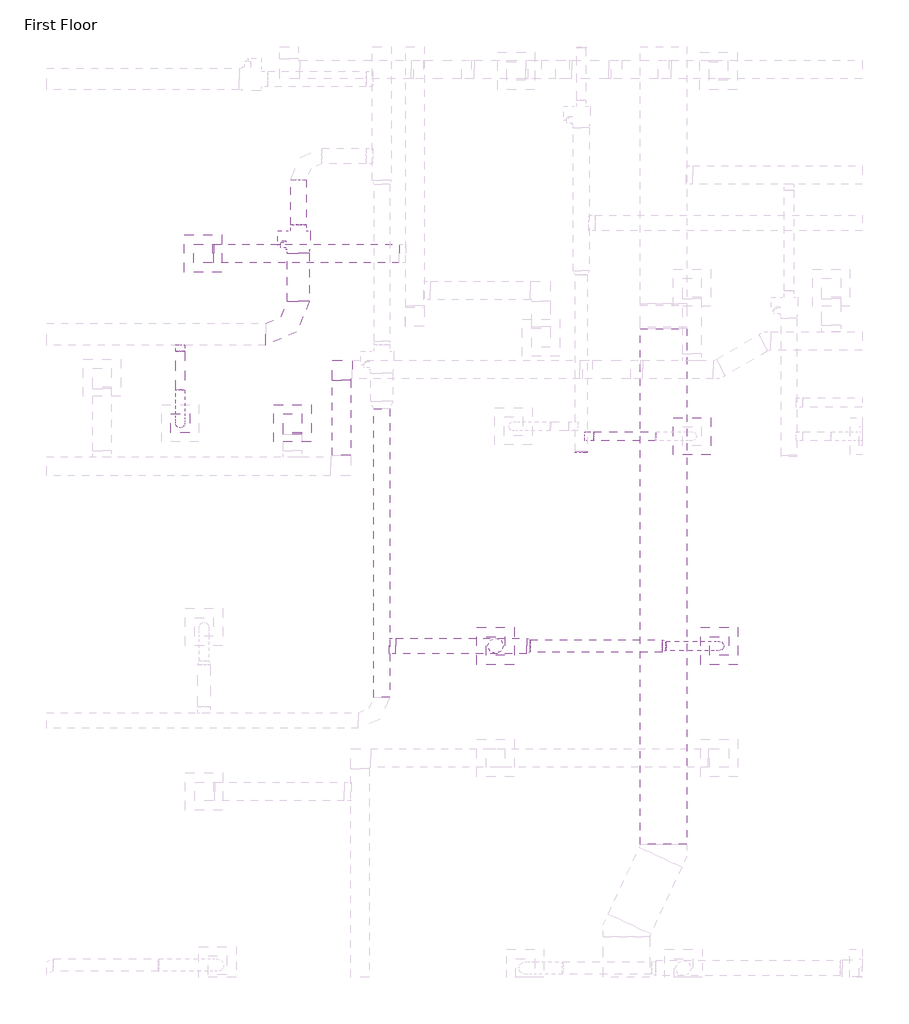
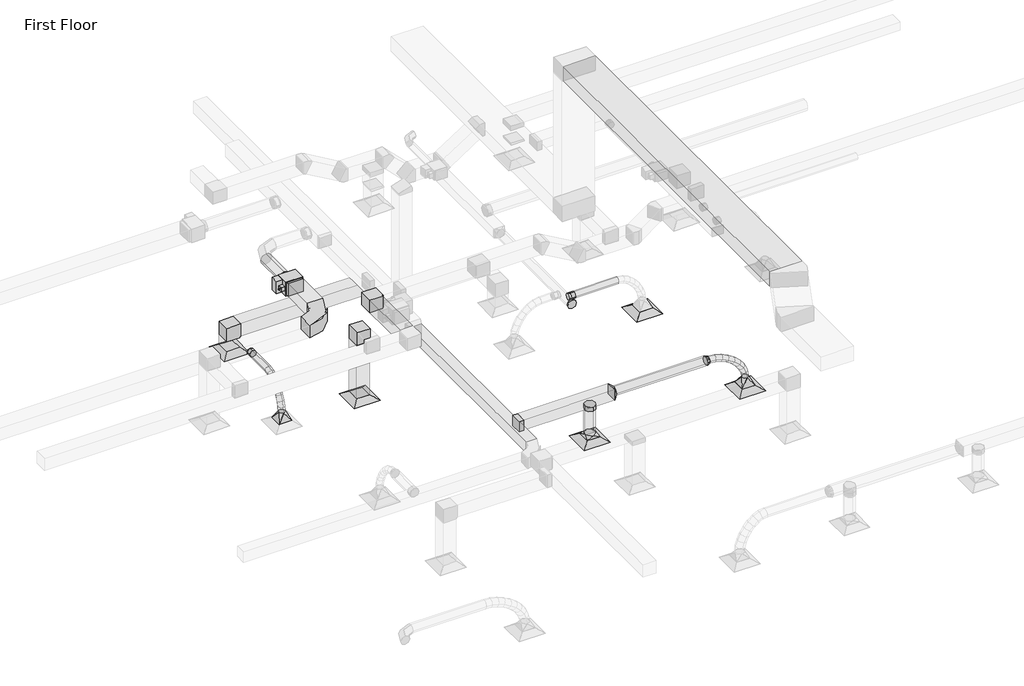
# One storey, part 36 of 61: 15 duct segments, 14 duct fittings, 5 air terminals, 1 proxy.
"""IFC4 building model written with IfcOpenShell, lengths in millimetres."""

from ifc_helpers import new_model, si_unit, point, frame, frame_2d, origin, place, context, project, spatial, polyline, circle_curve, ellipse_curve, trimmed, segment, composite_curve, outline, extrude, transform, mapped, element, save
from ifc_brep_helpers import plane_surface, cylinder_surface, advanced_brep
from components import m_exhaust_grill_er_600_x_600_face_300_x_300_connection_ff221211, m_vav_unit_single_duct_250_mm_b14a1009, m_rectangular_elbow_mitered_standard_8eee5933, m_rectangular_elbow_radius_1_5_w_da3ef0f7, m_rectangular_takeoff_standard_1c934564, m_rectangular_to_round_transition_angle_45_degree_8f201c83, m_rectangular_to_round_transition_angle_45_degree_8322f327, m_rectangular_to_round_transition_angle_45_degree_c30f01b8, m_round_endcap_standard_5afedfd2, m_round_takeoff_standard_2721f8a4, m_round_takeoff_standard_3c6c0435, m_round_takeoff_standard_8779dfef, m_round_transition_angle_45_degree_6d7b59ce

model = new_model("IFC4")

# Units and contexts
model_context = context("Model", 3, world=origin())
ifc_project = project(units=[si_unit("LENGTHUNIT", "METRE", prefix="MILLI")], contexts=[model_context])

# Site, building, storey
site = spatial("IfcSite", under=ifc_project)
building = spatial("IfcBuilding", under=site)
storey = spatial("IfcBuildingStorey", under=building, Name="First Floor", Elevation=0.0)

# Air terminals
placement = place(None, origin())
m_exhaust_grill_er_600_x_600_face_300_x_300_connection_shape = m_exhaust_grill_er_600_x_600_face_300_x_300_connection_ff221211(model_context)
element("IfcAirTerminal", 1, ObjectType="M_Exhaust Grill : ER-600 x 600 Face 300 x 300 Connection", at=placement, inside=storey, context=model_context, shape_type="MappedRepresentation", body=[
    mapped(m_exhaust_grill_er_600_x_600_face_300_x_300_connection_shape, transform((-42391.1937664, 38909.7346513, 2680.0), x_axis=(1.0, 0.0, 0.0), y_axis=(0.0, 1.0, 0.0), z_axis=(0.0, 0.0, 1.0))),
])
element("IfcAirTerminal", 2, ObjectType="M_Return Register : RR-600 x 600 Face 300 x 300 Connection", at=placement, inside=storey, context=model_context, shape_type="MappedRepresentation", body=[
    mapped(m_exhaust_grill_er_600_x_600_face_300_x_300_connection_shape, transform((-40955.8646212, 36180.4638744, 2680.0), x_axis=(1.0, 0.0, 0.0), y_axis=(0.0, 1.0, 0.0), z_axis=(0.0, 0.0, 1.0))),
])
element("IfcAirTerminal", 3, ObjectType="M_Supply Diffuser : SD-600 x 600 Face 300 x 300 Connection", at=placement, inside=storey, context=model_context, shape_type="MappedRepresentation", body=[
    mapped(m_exhaust_grill_er_600_x_600_face_300_x_300_connection_shape, transform((-34530.7549535, 35969.7483346, 2680.0), x_axis=(1.0, 0.0, 0.0), y_axis=(0.0, 1.0, 0.0), z_axis=(0.0, 0.0, 1.0))),
])
element("IfcAirTerminal", 4, ObjectType="M_Supply Diffuser : SD-600 x 600 Face 300 x 300 Connection", at=placement, inside=storey, context=model_context, shape_type="MappedRepresentation", body=[
    mapped(m_exhaust_grill_er_600_x_600_face_300_x_300_connection_shape, transform((-37688.496408, 32600.6692233, 2680.0), x_axis=(1.0, 0.0, 0.0), y_axis=(0.0, 1.0, 0.0), z_axis=(0.0, 0.0, 1.0))),
])
element("IfcAirTerminal", 5, ObjectType="M_Supply Diffuser : SD-600 x 600 Face 300 x 300 Connection", at=placement, inside=storey, context=model_context, shape_type="MappedRepresentation", body=[
    mapped(m_exhaust_grill_er_600_x_600_face_300_x_300_connection_shape, transform((-34093.0746185, 32600.6692233, 2680.0), x_axis=(1.0, 0.0, 0.0), y_axis=(0.0, 1.0, 0.0), z_axis=(0.0, 0.0, 1.0))),
])

# Proxy
m_vav_unit_single_duct_250_mm_shape = m_vav_unit_single_duct_250_mm_b14a1009(model_context)
element("IfcBuildingElementProxy", 6, Name="M_VAV Unit - Single Duct : 250 mm", ObjectType="M_VAV Unit - Single Duct : 250 mm", at=placement, inside=storey, context=model_context, shape_type="MappedRepresentation", body=[
    mapped(m_vav_unit_single_duct_250_mm_shape, transform((-40859.1255943, 39270.8324746, 3499.95), x_axis=(0.0, -1.0000000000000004, 0.0), y_axis=(1.0000000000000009, 0.0, 0.0), z_axis=(0.0, 0.0, 1.0000000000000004))),
])

# Duct fittings
m_rectangular_elbow_mitered_standard_shape = m_rectangular_elbow_mitered_standard_8eee5933(model_context)
element("IfcDuctFitting", 7, ObjectType="M_Rectangular Elbow - Mitered : Standard", at=placement, inside=storey, context=model_context, shape_type="MappedRepresentation", body=[
    mapped(m_rectangular_elbow_mitered_standard_shape, transform((-40955.8646212, 36180.4638744, 4259.5), x_axis=(0.0, 0.0, 1.0), y_axis=(0.0, -1.0, 0.0), z_axis=(1.0, 0.0, 0.0))),
])
element("IfcDuctFitting", 8, ObjectType="M_Rectangular Elbow - Mitered : Standard", at=placement, inside=storey, context=model_context, shape_type="MappedRepresentation", body=[
    mapped(m_rectangular_elbow_mitered_standard_shape, transform((-40167.2589113, 37043.8775197, 4259.5), x_axis=(-1.0, 0.0, 0.0), y_axis=(0.0, -1.0, 0.0), z_axis=(0.0, 0.0, 1.0))),
])
element("IfcDuctFitting", 9, ObjectType="M_Rectangular Elbow - Mitered : Standard", at=placement, inside=storey, context=model_context, shape_type="MappedRepresentation", body=[
    mapped(m_rectangular_elbow_mitered_standard_shape, transform((-42391.1937664, 38909.7346513, 3200.0), x_axis=(0.0, 0.0, 1.0), y_axis=(1.0, 0.0, 0.0), z_axis=(0.0, 1.0, 0.0))),
])
m_rectangular_elbow_radius_1_5_w_shape = m_rectangular_elbow_radius_1_5_w_da3ef0f7(model_context)
element("IfcDuctFitting", 10, ObjectType="M_Rectangular Elbow - Radius : 1.5 W", at=placement, inside=storey, context=model_context, shape_type="MappedRepresentation", body=[
    mapped(m_rectangular_elbow_radius_1_5_w_shape, transform((-40859.1255943, 37612.2097424, 3669.0), x_axis=(1.0, 0.0, 0.0), y_axis=(0.0, 1.0, 0.0), z_axis=(0.0, 0.0, 1.0))),
])
m_rectangular_takeoff_standard_shape = m_rectangular_takeoff_standard_1c934564(model_context)
element("IfcDuctFitting", 11, ObjectType="M_Rectangular Takeoff : Standard", at=placement, inside=storey, context=model_context, shape_type="MappedRepresentation", body=[
    mapped(m_rectangular_takeoff_standard_shape, transform((-39393.4687402, 32600.6692233, 3659.5), x_axis=(1.0, 0.0, 0.0), y_axis=(0.0, -1.0, 0.0), z_axis=(0.0, 0.0, -1.0))),
])
m_rectangular_to_round_transition_angle_45_degree_shape = m_rectangular_to_round_transition_angle_45_degree_8f201c83(model_context)
element("IfcDuctFitting", 12, ObjectType="M_Rectangular to Round Transition - Angle : 45 Degree", at=placement, inside=storey, context=model_context, shape_type="MappedRepresentation", body=[
    mapped(m_rectangular_to_round_transition_angle_45_degree_shape, transform((-42757.4487409, 36180.4638744, 2781.6), x_axis=(0.0, 0.0, 1.0), y_axis=(1.0, 0.0, 0.0), z_axis=(0.0, 1.0, 0.0))),
])
element("IfcDuctFitting", 13, ObjectType="M_Rectangular to Round Transition - Angle : 45 Degree", at=placement, inside=storey, context=model_context, shape_type="MappedRepresentation", body=[
    mapped(m_rectangular_to_round_transition_angle_45_degree_shape, transform((-34093.0746185, 32600.6692233, 2781.6), x_axis=(0.0, 0.0, 1.0), y_axis=(1.0, 0.0, 0.0), z_axis=(0.0, 1.0, 0.0))),
])
m_rectangular_to_round_transition_angle_45_degree_2_shape = m_rectangular_to_round_transition_angle_45_degree_8322f327(model_context)
element("IfcDuctFitting", 14, ObjectType="M_Rectangular to Round Transition - Angle : 45 Degree", at=placement, inside=storey, context=model_context, shape_type="MappedRepresentation", body=[
    mapped(m_rectangular_to_round_transition_angle_45_degree_2_shape, transform((-37188.1134011, 32600.6692233, 3659.5), x_axis=(1.0, 0.0, 0.0), y_axis=(0.0, 1.0, 0.0), z_axis=(0.0, 0.0, 1.0))),
])
m_rectangular_to_round_transition_angle_45_degree_3_shape = m_rectangular_to_round_transition_angle_45_degree_c30f01b8(model_context)
element("IfcDuctFitting", 15, ObjectType="M_Rectangular to Round Transition - Angle : 45 Degree", at=placement, inside=storey, context=model_context, shape_type="MappedRepresentation", body=[
    mapped(m_rectangular_to_round_transition_angle_45_degree_3_shape, transform((-37688.496408, 32600.6692233, 2781.6), x_axis=(0.0, 0.0, 1.0), y_axis=(0.0, -1.0, 0.0), z_axis=(1.0, 0.0, 0.0))),
])
m_round_endcap_standard_shape = m_round_endcap_standard_5afedfd2(model_context)
element("IfcDuctFitting", 16, ObjectType="M_Round Endcap : Standard", at=placement, inside=storey, context=model_context, shape_type="MappedRepresentation", body=[
    mapped(m_round_endcap_standard_shape, transform((-36311.3408383, 35729.6324746, 3619.0285156), x_axis=(0.0, -1.0, 0.0), y_axis=(1.0, 0.0, 0.0), z_axis=(0.0, 0.0, 1.0))),
])
m_round_takeoff_standard_shape = m_round_takeoff_standard_2721f8a4(model_context)
element("IfcDuctFitting", 17, ObjectType="M_Round Takeoff : Standard", at=placement, inside=storey, context=model_context, shape_type="MappedRepresentation", body=[
    mapped(m_round_takeoff_standard_shape, transform((-42757.4487409, 37437.2097424, 3669.0), x_axis=(0.0, -1.0, 0.0), y_axis=(-1.0, 0.0, 0.0), z_axis=(0.0, 0.0, -1.0))),
])
m_round_takeoff_standard_2_shape = m_round_takeoff_standard_3c6c0435(model_context)
element("IfcDuctFitting", 18, ObjectType="M_Round Takeoff : Standard", at=placement, inside=storey, context=model_context, shape_type="MappedRepresentation", body=[
    mapped(m_round_takeoff_standard_2_shape, transform((-37688.496408, 32600.6692233, 3534.5), x_axis=(0.0, 0.0, -1.0), y_axis=(0.0, 1.0, 0.0), z_axis=(1.0, 0.0, 0.0))),
])
m_round_takeoff_standard_3_shape = m_round_takeoff_standard_8779dfef(model_context)
element("IfcDuctFitting", 19, ObjectType="M_Round Takeoff : Standard", at=placement, inside=storey, context=model_context, shape_type="MappedRepresentation", body=[
    mapped(m_round_takeoff_standard_3_shape, transform((-36211.3408383, 35969.7483346, 3619.1), x_axis=(1.0, 0.0, 0.0), y_axis=(0.0, -1.0, 0.0), z_axis=(0.0, 0.0, -1.0))),
])
m_round_transition_angle_45_degree_shape = m_round_transition_angle_45_degree_6d7b59ce(model_context)
element("IfcDuctFitting", 20, ObjectType="M_Round Transition - Angle : 45 Degree", at=placement, inside=storey, context=model_context, shape_type="MappedRepresentation", body=[
    mapped(m_round_transition_angle_45_degree_shape, transform((-35008.4687402, 32600.6692233, 3659.5), x_axis=(1.0, 0.0, 0.0), y_axis=(0.0, 1.0, 0.0), z_axis=(0.0, 0.0, 1.0))),
])

# Duct segments
element("IfcDuctSegment", 21, ObjectType="Flex - Round", at=placement, inside=storey, context=model_context, shape_type="AdvancedBrep", body=[
    advanced_brep(
    [(-42682.4487409, 36712.2097424, 3669.0), (-42757.4487409, 36724.7756395, 3595.0601716), (-42832.4487409, 36712.2097424, 3669.0), (-42757.4487409, 36699.6438452, 3742.9398284), (-42682.4487409, 36604.7486089, 3650.7372371), (-42757.4487409, 36628.5180021, 3578.7014161), (-42832.4487409, 36604.7486089, 3650.7372371), (-42757.4487409, 36580.9792157, 3722.7730582), (-42682.4487409, 36180.4638744, 2962.6660172), (-42757.4487409, 36105.7902912, 2969.6557219), (-42832.4487409, 36180.4638744, 2962.6660172), (-42757.4487409, 36255.1374576, 2955.6763125), (-42682.4487409, 36504.7956172, 3600.0782596), (-42757.4487409, 36546.6272461, 3537.1968859), (-42832.4487409, 36504.7956172, 3600.0782596), (-42757.4487409, 36462.9639882, 3662.9596334), (-42682.4487409, 36414.452825, 3523.2170341), (-42757.4487409, 36468.3226166, 3470.5774064), (-42832.4487409, 36414.452825, 3523.2170341), (-42757.4487409, 36360.5830333, 3575.8566617), (-42682.4487409, 36335.8222899, 3426.3475271), (-42757.4487409, 36397.6543372, 3383.517063), (-42832.4487409, 36335.8222899, 3426.3475271), (-42757.4487409, 36273.9902425, 3469.1779912), (-42682.4487409, 36271.0060696, 3315.6637053), (-42757.4487409, 36338.3412045, 3282.2306229), (-42832.4487409, 36271.0060696, 3315.6637053), (-42757.4487409, 36203.6709347, 3349.0967877), (-42682.4487409, 36222.1062218, 3197.3595353), (-42757.4487409, 36293.4205667, 3173.5534181), (-42832.4487409, 36222.1062218, 3197.3595353), (-42757.4487409, 36150.791877, 3221.1656525), (-42682.4487409, 36191.2248042, 3077.6289837), (-42757.4487409, 36265.3412111, 3064.6867602), (-42832.4487409, 36191.2248042, 3077.6289837), (-42757.4487409, 36117.1083973, 3090.5712073)],
    [
        (0, 1, circle_curve(frame((-42757.4487409, 36712.2097424, 3669.0), z_axis=(0.0, 0.985864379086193, 0.16754529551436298), x_axis=(1.0, 0.0, 0.0)), 75.0)),
        (1, 2, circle_curve(frame((-42757.4487409, 36712.2097424, 3669.0), z_axis=(0.0, 0.985864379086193, 0.16754529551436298), x_axis=(1.0, 0.0, 0.0)), 75.0)),
        (2, 3, circle_curve(frame((-42757.4487409, 36712.2097424, 3669.0), z_axis=(0.0, 0.985864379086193, 0.16754529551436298), x_axis=(1.0, 0.0, 0.0)), 75.0)),
        (3, 0, circle_curve(frame((-42757.4487409, 36712.2097424, 3669.0), z_axis=(0.0, 0.985864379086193, 0.16754529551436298), x_axis=(1.0, 0.0, 0.0)), 75.0)),
        (0, 4),
        (4, 5, ellipse_curve(frame((-42757.4487409, 36604.7486089, 3650.7372371), z_axis=(0.0, 0.9496381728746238, 0.31334859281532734), x_axis=(0.0, 0.313348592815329, -0.9496381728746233)), 75.8560714, 75.0)),
        (5, 1),
        (5, 6, ellipse_curve(frame((-42757.4487409, 36604.7486089, 3650.7372371), z_axis=(0.0, 0.9496381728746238, 0.31334859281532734), x_axis=(0.0, 0.313348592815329, -0.9496381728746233)), 75.8560714, 75.0)),
        (6, 2),
        (6, 7, ellipse_curve(frame((-42757.4487409, 36604.7486089, 3650.7372371), z_axis=(0.0, 0.9496381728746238, 0.31334859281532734), x_axis=(0.0, 0.313348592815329, -0.9496381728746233)), 75.8560714, 75.0)),
        (7, 3),
        (7, 4, ellipse_curve(frame((-42757.4487409, 36604.7486089, 3650.7372371), z_axis=(0.0, 0.9496381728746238, 0.31334859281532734), x_axis=(0.0, 0.313348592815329, -0.9496381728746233)), 75.8560714, 75.0)),
        (8, 9, circle_curve(frame((-42757.4487409, 36180.4638744, 2962.6660172), z_axis=(0.0, -0.0931960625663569, -0.9956477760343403), x_axis=(1.0, 0.0, 0.0)), 75.0)),
        (9, 10, circle_curve(frame((-42757.4487409, 36180.4638744, 2962.6660172), z_axis=(0.0, -0.0931960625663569, -0.9956477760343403), x_axis=(1.0, 0.0, 0.0)), 75.0)),
        (10, 11, circle_curve(frame((-42757.4487409, 36180.4638744, 2962.6660172), z_axis=(0.0, -0.0931960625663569, -0.9956477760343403), x_axis=(1.0, 0.0, 0.0)), 75.0)),
        (11, 8, circle_curve(frame((-42757.4487409, 36180.4638744, 2962.6660172), z_axis=(0.0, -0.0931960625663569, -0.9956477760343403), x_axis=(1.0, 0.0, 0.0)), 75.0)),
        (4, 12),
        (12, 13, ellipse_curve(frame((-42757.4487409, 36504.7956172, 3600.0782596), z_axis=(0.0, 0.8325955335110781, 0.5538814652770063), x_axis=(0.0, 0.5538814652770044, -0.8325955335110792)), 75.5245149, 75.0)),
        (13, 5),
        (13, 14, ellipse_curve(frame((-42757.4487409, 36504.7956172, 3600.0782596), z_axis=(0.0, 0.8325955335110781, 0.5538814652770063), x_axis=(0.0, 0.5538814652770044, -0.8325955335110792)), 75.5245149, 75.0)),
        (14, 6),
        (14, 15, ellipse_curve(frame((-42757.4487409, 36504.7956172, 3600.0782596), z_axis=(0.0, 0.8325955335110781, 0.5538814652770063), x_axis=(0.0, 0.5538814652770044, -0.8325955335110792)), 75.5245149, 75.0)),
        (15, 7),
        (15, 12, ellipse_curve(frame((-42757.4487409, 36504.7956172, 3600.0782596), z_axis=(0.0, 0.8325955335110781, 0.5538814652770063), x_axis=(0.0, 0.5538814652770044, -0.8325955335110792)), 75.5245149, 75.0)),
        (12, 16),
        (16, 17, ellipse_curve(frame((-42757.4487409, 36414.452825, 3523.2170341), z_axis=(0.0, 0.6988932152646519, 0.7152260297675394), x_axis=(0.0, 0.7152260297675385, -0.6988932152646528)), 75.3185559, 75.0)),
        (17, 13),
        (17, 18, ellipse_curve(frame((-42757.4487409, 36414.452825, 3523.2170341), z_axis=(0.0, 0.6988932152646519, 0.7152260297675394), x_axis=(0.0, 0.7152260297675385, -0.6988932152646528)), 75.3185559, 75.0)),
        (18, 14),
        (18, 19, ellipse_curve(frame((-42757.4487409, 36414.452825, 3523.2170341), z_axis=(0.0, 0.6988932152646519, 0.7152260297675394), x_axis=(0.0, 0.7152260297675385, -0.6988932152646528)), 75.3185559, 75.0)),
        (19, 15),
        (19, 16, ellipse_curve(frame((-42757.4487409, 36414.452825, 3523.2170341), z_axis=(0.0, 0.6988932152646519, 0.7152260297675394), x_axis=(0.0, 0.7152260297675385, -0.6988932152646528)), 75.3185559, 75.0)),
        (16, 20),
        (20, 21, ellipse_curve(frame((-42757.4487409, 36335.8222899, 3426.3475271), z_axis=(0.0, 0.5694226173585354, 0.8220449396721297), x_axis=(0.0, 0.8220449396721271, -0.5694226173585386)), 75.2173566, 75.0)),
        (21, 17),
        (21, 22, ellipse_curve(frame((-42757.4487409, 36335.8222899, 3426.3475271), z_axis=(0.0, 0.5694226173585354, 0.8220449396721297), x_axis=(0.0, 0.8220449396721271, -0.5694226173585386)), 75.2173566, 75.0)),
        (22, 18),
        (22, 23, ellipse_curve(frame((-42757.4487409, 36335.8222899, 3426.3475271), z_axis=(0.0, 0.5694226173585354, 0.8220449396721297), x_axis=(0.0, 0.8220449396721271, -0.5694226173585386)), 75.2173566, 75.0)),
        (23, 19),
        (23, 20, ellipse_curve(frame((-42757.4487409, 36335.8222899, 3426.3475271), z_axis=(0.0, 0.5694226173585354, 0.8220449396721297), x_axis=(0.0, 0.8220449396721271, -0.5694226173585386)), 75.2173566, 75.0)),
        (20, 24),
        (24, 25, ellipse_curve(frame((-42757.4487409, 36271.0060696, 3315.6637053), z_axis=(0.0, 0.4447166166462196, 0.8956713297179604), x_axis=(0.0, 0.8956713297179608, -0.4447166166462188)), 75.1783971, 75.0)),
        (25, 21),
        (25, 26, ellipse_curve(frame((-42757.4487409, 36271.0060696, 3315.6637053), z_axis=(0.0, 0.4447166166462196, 0.8956713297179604), x_axis=(0.0, 0.8956713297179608, -0.4447166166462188)), 75.1783971, 75.0)),
        (26, 22),
        (26, 27, ellipse_curve(frame((-42757.4487409, 36271.0060696, 3315.6637053), z_axis=(0.0, 0.4447166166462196, 0.8956713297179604), x_axis=(0.0, 0.8956713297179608, -0.4447166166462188)), 75.1783971, 75.0)),
        (27, 23),
        (27, 24, ellipse_curve(frame((-42757.4487409, 36271.0060696, 3315.6637053), z_axis=(0.0, 0.4447166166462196, 0.8956713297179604), x_axis=(0.0, 0.8956713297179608, -0.4447166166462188)), 75.1783971, 75.0)),
        (24, 28),
        (28, 29, ellipse_curve(frame((-42757.4487409, 36222.1062218, 3197.3595353), z_axis=(0.0, 0.31664275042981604, 0.9485448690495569), x_axis=(0.0, 0.9485448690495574, -0.316642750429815)), 75.1828903, 75.0)),
        (29, 25),
        (29, 30, ellipse_curve(frame((-42757.4487409, 36222.1062218, 3197.3595353), z_axis=(0.0, 0.31664275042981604, 0.9485448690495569), x_axis=(0.0, 0.9485448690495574, -0.316642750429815)), 75.1828903, 75.0)),
        (30, 26),
        (30, 31, ellipse_curve(frame((-42757.4487409, 36222.1062218, 3197.3595353), z_axis=(0.0, 0.31664275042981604, 0.9485448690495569), x_axis=(0.0, 0.9485448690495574, -0.316642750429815)), 75.1828903, 75.0)),
        (31, 27),
        (31, 28, ellipse_curve(frame((-42757.4487409, 36222.1062218, 3197.3595353), z_axis=(0.0, 0.31664275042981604, 0.9485448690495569), x_axis=(0.0, 0.9485448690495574, -0.316642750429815)), 75.1828903, 75.0)),
        (28, 32),
        (32, 33, ellipse_curve(frame((-42757.4487409, 36191.2248042, 3077.6289837), z_axis=(0.0, 0.17201732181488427, 0.9850939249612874), x_axis=(0.0, 0.9850939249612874, -0.172017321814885)), 75.2379088, 75.0)),
        (33, 29),
        (33, 34, ellipse_curve(frame((-42757.4487409, 36191.2248042, 3077.6289837), z_axis=(0.0, 0.17201732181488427, 0.9850939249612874), x_axis=(0.0, 0.9850939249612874, -0.172017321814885)), 75.2379088, 75.0)),
        (34, 30),
        (34, 35, ellipse_curve(frame((-42757.4487409, 36191.2248042, 3077.6289837), z_axis=(0.0, 0.17201732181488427, 0.9850939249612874), x_axis=(0.0, 0.9850939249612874, -0.172017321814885)), 75.2379088, 75.0)),
        (35, 31),
        (35, 32, ellipse_curve(frame((-42757.4487409, 36191.2248042, 3077.6289837), z_axis=(0.0, 0.17201732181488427, 0.9850939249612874), x_axis=(0.0, 0.9850939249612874, -0.172017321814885)), 75.2379088, 75.0)),
        (32, 8),
        (11, 33),
        (10, 34),
        (9, 35),
    ],
    [
        plane_surface(frame((-42757.4487409, 36724.7756395, 3595.0601716), z_axis=(0.0, 0.9858643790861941, 0.1675452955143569), x_axis=(1.0, 0.0, 0.0))),
        cylinder_surface(frame((-42757.4487409, 36712.2097424, 3669.0), z_axis=(0.0, 0.985864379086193, 0.16754529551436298), x_axis=(1.0, 0.0, 0.0)), 75.0),
        plane_surface(frame((-42757.4487409, 36255.1374576, 2955.6763125), z_axis=(0.0, -0.09319606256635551, -0.9956477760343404), x_axis=(1.0, 0.0, 0.0))),
        cylinder_surface(frame((-42757.4487409, 36604.7486089, 3650.7372371), z_axis=(0.0, 0.891977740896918, 0.4520793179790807), x_axis=(1.0, 0.0, 0.0)), 75.0),
        cylinder_surface(frame((-42757.4487409, 36504.7956172, 3600.0782596), z_axis=(0.0, 0.7616486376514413, 0.6479902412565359), x_axis=(1.0, 0.0, 0.0)), 75.0),
        cylinder_surface(frame((-42757.4487409, 36414.452825, 3523.2170341), z_axis=(0.0, 0.6302259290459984, 0.7764117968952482), x_axis=(1.0, 0.0, 0.0)), 75.0),
        cylinder_surface(frame((-42757.4487409, 36335.8222899, 3426.3475271), z_axis=(0.0, 0.5053283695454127, 0.8629271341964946), x_axis=(1.0, 0.0, 0.0)), 75.0),
        cylinder_surface(frame((-42757.4487409, 36271.0060696, 3315.6637053), z_axis=(0.0, 0.3819942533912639, 0.9241646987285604), x_axis=(1.0, 0.0, 0.0)), 75.0),
        cylinder_surface(frame((-42757.4487409, 36222.1062218, 3197.3595353), z_axis=(0.0, 0.24975071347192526, 0.9683101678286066), x_axis=(1.0, 0.0, 0.0)), 75.0),
        cylinder_surface(frame((-42757.4487409, 36191.2248042, 3077.6289837), z_axis=(0.0, 0.0931960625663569, 0.9956477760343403), x_axis=(1.0, 0.0, 0.0)), 75.0),
    ],
    [
        (0, [[1, 2, 3, 4]]),
        (1, [[-1, 5, 6, 7]]),
        (1, [[-2, -7, 8, 9]]),
        (1, [[-3, -9, 10, 11]]),
        (1, [[-4, -11, 12, -5]]),
        (2, [[13, 14, 15, 16]]),
        (3, [[-6, 17, 18, 19]]),
        (3, [[-8, -19, 20, 21]]),
        (3, [[-10, -21, 22, 23]]),
        (3, [[-12, -23, 24, -17]]),
        (4, [[-18, 25, 26, 27]]),
        (4, [[-20, -27, 28, 29]]),
        (4, [[-22, -29, 30, 31]]),
        (4, [[-24, -31, 32, -25]]),
        (5, [[-26, 33, 34, 35]]),
        (5, [[-28, -35, 36, 37]]),
        (5, [[-30, -37, 38, 39]]),
        (5, [[-32, -39, 40, -33]]),
        (6, [[-34, 41, 42, 43]]),
        (6, [[-36, -43, 44, 45]]),
        (6, [[-38, -45, 46, 47]]),
        (6, [[-40, -47, 48, -41]]),
        (7, [[-42, 49, 50, 51]]),
        (7, [[-44, -51, 52, 53]]),
        (7, [[-46, -53, 54, 55]]),
        (7, [[-48, -55, 56, -49]]),
        (8, [[-50, 57, 58, 59]]),
        (8, [[-52, -59, 60, 61]]),
        (8, [[-54, -61, 62, 63]]),
        (8, [[-56, -63, 64, -57]]),
        (9, [[-58, 65, -16, 66]]),
        (9, [[-60, -66, -15, 67]]),
        (9, [[-62, -67, -14, 68]]),
        (9, [[-64, -68, -13, -65]]),
    ],
),
])
element("IfcDuctSegment", 22, ObjectType="Flex - Round", at=placement, inside=storey, context=model_context, shape_type="AdvancedBrep", body=[
    advanced_brep(
    [(-34948.1134011, 32675.6692233, 3659.5), (-34955.9037684, 32600.6692233, 3584.9056961), (-34948.1134011, 32525.6692233, 3659.5), (-34940.3230338, 32600.6692233, 3734.0943039), (-34805.8103071, 32675.6692233, 3644.6383643), (-34820.230345, 32600.6692233, 3570.7364399), (-34805.8103071, 32525.6692233, 3644.6383643), (-34791.3902692, 32600.6692233, 3718.5402887), (-34093.0746185, 32675.6692233, 2962.6660172), (-34019.0147525, 32600.6692233, 2974.5039331), (-34093.0746185, 32525.6692233, 2962.6660172), (-34167.1344844, 32600.6692233, 2950.8281013), (-34659.4003967, 32675.6692233, 3602.3240884), (-34685.7129818, 32600.6692233, 3531.8592573), (-34659.4003967, 32525.6692233, 3602.3240884), (-34633.0878116, 32600.6692233, 3672.7889195), (-34515.9975419, 32675.6692233, 3535.9631193), (-34552.4354482, 32600.6692233, 3470.1838722), (-34515.9975419, 32525.6692233, 3535.9631193), (-34479.5596356, 32600.6692233, 3601.7423663), (-34382.7156146, 32675.6692233, 3448.9614038), (-34428.5419601, 32600.6692233, 3389.310597), (-34382.7156146, 32525.6692233, 3448.9614038), (-34336.889269, 32600.6692233, 3508.6122106), (-34266.6684866, 32675.6692233, 3344.7248889), (-34321.7821972, 32600.6692233, 3293.4162322), (-34266.6684866, 32525.6692233, 3344.7248889), (-34211.5547761, 32600.6692233, 3396.0335457), (-34174.97003, 32675.6692233, 3226.6595216), (-34239.3300978, 32600.6692233, 3187.2559133), (-34174.97003, 32525.6692233, 3226.6595216), (-34110.6099623, 32600.6692233, 3266.06313), (-34114.7341167, 32675.6692233, 3098.1712487), (-34187.1264871, 32600.6692233, 3075.9012179), (-34114.7341167, 32525.6692233, 3098.1712487), (-34042.3417463, 32600.6692233, 3120.4412796)],
    [
        (0, 1, circle_curve(frame((-34948.1134011, 32600.6692233, 3659.5), z_axis=(-0.9945907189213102, 0.0, 0.10387156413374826), x_axis=(0.0, 1.0, 0.0)), 75.0)),
        (1, 2, circle_curve(frame((-34948.1134011, 32600.6692233, 3659.5), z_axis=(-0.9945907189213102, 0.0, 0.10387156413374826), x_axis=(0.0, 1.0, 0.0)), 75.0)),
        (2, 3, circle_curve(frame((-34948.1134011, 32600.6692233, 3659.5), z_axis=(-0.9945907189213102, 0.0, 0.10387156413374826), x_axis=(0.0, 1.0, 0.0)), 75.0)),
        (3, 0, circle_curve(frame((-34948.1134011, 32600.6692233, 3659.5), z_axis=(-0.9945907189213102, 0.0, 0.10387156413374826), x_axis=(0.0, 1.0, 0.0)), 75.0)),
        (0, 4),
        (4, 5, ellipse_curve(frame((-34805.8103071, 32600.6692233, 3644.6383643), z_axis=(-0.9814902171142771, 0.0, 0.19151228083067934), x_axis=(-0.19151228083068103, 0.0, -0.9814902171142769)), 75.2956302, 75.0)),
        (5, 1),
        (5, 6, ellipse_curve(frame((-34805.8103071, 32600.6692233, 3644.6383643), z_axis=(-0.9814902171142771, 0.0, 0.19151228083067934), x_axis=(-0.19151228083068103, 0.0, -0.9814902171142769)), 75.2956302, 75.0)),
        (6, 2),
        (6, 7, ellipse_curve(frame((-34805.8103071, 32600.6692233, 3644.6383643), z_axis=(-0.9814902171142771, 0.0, 0.19151228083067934), x_axis=(-0.19151228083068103, 0.0, -0.9814902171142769)), 75.2956302, 75.0)),
        (7, 3),
        (7, 4, ellipse_curve(frame((-34805.8103071, 32600.6692233, 3644.6383643), z_axis=(-0.9814902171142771, 0.0, 0.19151228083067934), x_axis=(-0.19151228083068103, 0.0, -0.9814902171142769)), 75.2956302, 75.0)),
        (8, 9, circle_curve(frame((-34093.0746185, 32600.6692233, 2962.6660172), z_axis=(0.15783887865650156, 0.0, -0.9874648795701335), x_axis=(0.0, 1.0, 0.0)), 75.0)),
        (9, 10, circle_curve(frame((-34093.0746185, 32600.6692233, 2962.6660172), z_axis=(0.15783887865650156, 0.0, -0.9874648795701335), x_axis=(0.0, 1.0, 0.0)), 75.0)),
        (10, 11, circle_curve(frame((-34093.0746185, 32600.6692233, 2962.6660172), z_axis=(0.15783887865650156, 0.0, -0.9874648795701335), x_axis=(0.0, 1.0, 0.0)), 75.0)),
        (11, 8, circle_curve(frame((-34093.0746185, 32600.6692233, 2962.6660172), z_axis=(0.15783887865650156, 0.0, -0.9874648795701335), x_axis=(0.0, 1.0, 0.0)), 75.0)),
        (4, 12),
        (12, 13, ellipse_curve(frame((-34659.4003967, 32600.6692233, 3602.3240884), z_axis=(-0.9368166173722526, 0.0, 0.3498208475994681), x_axis=(-0.34982084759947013, 0.0, -0.936816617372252)), 75.2173155, 75.0)),
        (13, 5),
        (13, 14, ellipse_curve(frame((-34659.4003967, 32600.6692233, 3602.3240884), z_axis=(-0.9368166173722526, 0.0, 0.3498208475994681), x_axis=(-0.34982084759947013, 0.0, -0.936816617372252)), 75.2173155, 75.0)),
        (14, 6),
        (14, 15, ellipse_curve(frame((-34659.4003967, 32600.6692233, 3602.3240884), z_axis=(-0.9368166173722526, 0.0, 0.3498208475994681), x_axis=(-0.34982084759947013, 0.0, -0.936816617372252)), 75.2173155, 75.0)),
        (15, 7),
        (15, 12, ellipse_curve(frame((-34659.4003967, 32600.6692233, 3602.3240884), z_axis=(-0.9368166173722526, 0.0, 0.3498208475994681), x_axis=(-0.34982084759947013, 0.0, -0.936816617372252)), 75.2173155, 75.0)),
        (12, 16),
        (16, 17, ellipse_curve(frame((-34515.9975419, 32600.6692233, 3535.9631193), z_axis=(-0.874755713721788, 0.0, 0.48456417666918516), x_axis=(-0.484564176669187, 0.0, -0.8747557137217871)), 75.1972762, 75.0)),
        (17, 13),
        (17, 18, ellipse_curve(frame((-34515.9975419, 32600.6692233, 3535.9631193), z_axis=(-0.874755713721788, 0.0, 0.48456417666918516), x_axis=(-0.484564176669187, 0.0, -0.8747557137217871)), 75.1972762, 75.0)),
        (18, 14),
        (18, 19, ellipse_curve(frame((-34515.9975419, 32600.6692233, 3535.9631193), z_axis=(-0.874755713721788, 0.0, 0.48456417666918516), x_axis=(-0.484564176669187, 0.0, -0.8747557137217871)), 75.1972762, 75.0)),
        (19, 15),
        (19, 16, ellipse_curve(frame((-34515.9975419, 32600.6692233, 3535.9631193), z_axis=(-0.874755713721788, 0.0, 0.48456417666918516), x_axis=(-0.484564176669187, 0.0, -0.8747557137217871)), 75.1972762, 75.0)),
        (16, 20),
        (20, 21, ellipse_curve(frame((-34382.7156146, 32600.6692233, 3448.9614038), z_axis=(-0.7930021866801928, 0.0, 0.6092187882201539), x_axis=(-0.6092187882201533, 0.0, -0.7930021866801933)), 75.221491, 75.0)),
        (21, 17),
        (21, 22, ellipse_curve(frame((-34382.7156146, 32600.6692233, 3448.9614038), z_axis=(-0.7930021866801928, 0.0, 0.6092187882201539), x_axis=(-0.6092187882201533, 0.0, -0.7930021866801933)), 75.221491, 75.0)),
        (22, 18),
        (22, 23, ellipse_curve(frame((-34382.7156146, 32600.6692233, 3448.9614038), z_axis=(-0.7930021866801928, 0.0, 0.6092187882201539), x_axis=(-0.6092187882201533, 0.0, -0.7930021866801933)), 75.221491, 75.0)),
        (23, 19),
        (23, 20, ellipse_curve(frame((-34382.7156146, 32600.6692233, 3448.9614038), z_axis=(-0.7930021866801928, 0.0, 0.6092187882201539), x_axis=(-0.6092187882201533, 0.0, -0.7930021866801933)), 75.221491, 75.0)),
        (20, 24),
        (24, 25, ellipse_curve(frame((-34266.6684866, 32600.6692233, 3344.7248889), z_axis=(-0.681389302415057, 0.0, 0.7319211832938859), x_axis=(-0.7319211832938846, 0.0, -0.6813893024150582)), 75.3000621, 75.0)),
        (25, 21),
        (25, 26, ellipse_curve(frame((-34266.6684866, 32600.6692233, 3344.7248889), z_axis=(-0.681389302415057, 0.0, 0.7319211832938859), x_axis=(-0.7319211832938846, 0.0, -0.6813893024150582)), 75.3000621, 75.0)),
        (26, 22),
        (26, 27, ellipse_curve(frame((-34266.6684866, 32600.6692233, 3344.7248889), z_axis=(-0.681389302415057, 0.0, 0.7319211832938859), x_axis=(-0.7319211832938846, 0.0, -0.6813893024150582)), 75.3000621, 75.0)),
        (27, 23),
        (27, 24, ellipse_curve(frame((-34266.6684866, 32600.6692233, 3344.7248889), z_axis=(-0.681389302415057, 0.0, 0.7319211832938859), x_axis=(-0.7319211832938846, 0.0, -0.6813893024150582)), 75.3000621, 75.0)),
        (24, 28),
        (28, 29, ellipse_curve(frame((-34174.97003, 32600.6692233, 3226.6595216), z_axis=(-0.5221488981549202, 0.0, 0.8528543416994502), x_axis=(-0.8528543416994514, 0.0, -0.5221488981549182)), 75.4643139, 75.0)),
        (29, 25),
        (29, 30, ellipse_curve(frame((-34174.97003, 32600.6692233, 3226.6595216), z_axis=(-0.5221488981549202, 0.0, 0.8528543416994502), x_axis=(-0.8528543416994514, 0.0, -0.5221488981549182)), 75.4643139, 75.0)),
        (30, 26),
        (30, 31, ellipse_curve(frame((-34174.97003, 32600.6692233, 3226.6595216), z_axis=(-0.5221488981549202, 0.0, 0.8528543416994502), x_axis=(-0.8528543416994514, 0.0, -0.5221488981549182)), 75.4643139, 75.0)),
        (31, 27),
        (31, 28, ellipse_curve(frame((-34174.97003, 32600.6692233, 3226.6595216), z_axis=(-0.5221488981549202, 0.0, 0.8528543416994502), x_axis=(-0.8528543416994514, 0.0, -0.5221488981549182)), 75.4643139, 75.0)),
        (28, 32),
        (32, 33, ellipse_curve(frame((-34114.7341167, 32600.6692233, 3098.1712487), z_axis=(-0.29403103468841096, 0.0, 0.9557958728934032), x_axis=(-0.955795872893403, 0.0, -0.29403103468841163)), 75.7404091, 75.0)),
        (33, 29),
        (33, 34, ellipse_curve(frame((-34114.7341167, 32600.6692233, 3098.1712487), z_axis=(-0.29403103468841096, 0.0, 0.9557958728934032), x_axis=(-0.955795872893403, 0.0, -0.29403103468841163)), 75.7404091, 75.0)),
        (34, 30),
        (34, 35, ellipse_curve(frame((-34114.7341167, 32600.6692233, 3098.1712487), z_axis=(-0.29403103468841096, 0.0, 0.9557958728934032), x_axis=(-0.955795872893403, 0.0, -0.29403103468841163)), 75.7404091, 75.0)),
        (35, 31),
        (35, 32, ellipse_curve(frame((-34114.7341167, 32600.6692233, 3098.1712487), z_axis=(-0.29403103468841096, 0.0, 0.9557958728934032), x_axis=(-0.955795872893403, 0.0, -0.29403103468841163)), 75.7404091, 75.0)),
        (32, 8),
        (11, 33),
        (10, 34),
        (9, 35),
    ],
    [
        plane_surface(frame((-34948.1134011, 32675.6692233, 3659.5), z_axis=(-0.9945907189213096, 0.0, 0.10387156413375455), x_axis=(0.10387156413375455, 0.0, 0.9945907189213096))),
        cylinder_surface(frame((-34948.1134011, 32600.6692233, 3659.5), z_axis=(-0.9945907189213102, 0.0, 0.10387156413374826), x_axis=(0.0, 1.0, 0.0)), 75.0),
        plane_surface(frame((-34093.0746185, 32675.6692233, 2962.6660172), z_axis=(0.15783887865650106, 0.0, -0.9874648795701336), x_axis=(0.9874648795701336, 0.0, 0.15783887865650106))),
        cylinder_surface(frame((-34805.8103071, 32600.6692233, 3644.6383643), z_axis=(-0.9606825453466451, 0.0, 0.2776491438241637), x_axis=(0.0, 1.0, 0.0)), 75.0),
        cylinder_surface(frame((-34659.4003967, 32600.6692233, 3602.3240884), z_axis=(-0.9075374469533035, 0.0, 0.41997116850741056), x_axis=(0.0, 1.0, 0.0)), 75.0),
        cylinder_surface(frame((-34515.9975419, 32600.6692233, 3535.9631193), z_axis=(-0.837384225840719, 0.0, 0.546614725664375), x_axis=(0.0, 1.0, 0.0)), 75.0),
        cylinder_surface(frame((-34382.7156146, 32600.6692233, 3448.9614038), z_axis=(-0.7439501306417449, 0.0, 0.6682351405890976), x_axis=(0.0, 1.0, 0.0)), 75.0),
        cylinder_surface(frame((-34266.6684866, 32600.6692233, 3344.7248889), z_axis=(-0.6133979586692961, 0.0, 0.7897739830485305), x_axis=(0.0, 1.0, 0.0)), 75.0),
        cylinder_surface(frame((-34174.97003, 32600.6692233, 3226.6595216), z_axis=(-0.42447452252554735, 0.0, 0.9054398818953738), x_axis=(0.0, 1.0, 0.0)), 75.0),
        cylinder_surface(frame((-34114.7341167, 32600.6692233, 3098.1712487), z_axis=(-0.15783887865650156, 0.0, 0.9874648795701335), x_axis=(0.0, 1.0, 0.0)), 75.0),
    ],
    [
        (0, [[1, 2, 3, 4]]),
        (1, [[-1, 5, 6, 7]]),
        (1, [[-2, -7, 8, 9]]),
        (1, [[-3, -9, 10, 11]]),
        (1, [[-4, -11, 12, -5]]),
        (2, [[13, 14, 15, 16]]),
        (3, [[-6, 17, 18, 19]]),
        (3, [[-8, -19, 20, 21]]),
        (3, [[-10, -21, 22, 23]]),
        (3, [[-12, -23, 24, -17]]),
        (4, [[-18, 25, 26, 27]]),
        (4, [[-20, -27, 28, 29]]),
        (4, [[-22, -29, 30, 31]]),
        (4, [[-24, -31, 32, -25]]),
        (5, [[-26, 33, 34, 35]]),
        (5, [[-28, -35, 36, 37]]),
        (5, [[-30, -37, 38, 39]]),
        (5, [[-32, -39, 40, -33]]),
        (6, [[-34, 41, 42, 43]]),
        (6, [[-36, -43, 44, 45]]),
        (6, [[-38, -45, 46, 47]]),
        (6, [[-40, -47, 48, -41]]),
        (7, [[-42, 49, 50, 51]]),
        (7, [[-44, -51, 52, 53]]),
        (7, [[-46, -53, 54, 55]]),
        (7, [[-48, -55, 56, -49]]),
        (8, [[-50, 57, 58, 59]]),
        (8, [[-52, -59, 60, 61]]),
        (8, [[-54, -61, 62, 63]]),
        (8, [[-56, -63, 64, -57]]),
        (9, [[-58, 65, -16, 66]]),
        (9, [[-60, -66, -15, 67]]),
        (9, [[-62, -67, -14, 68]]),
        (9, [[-64, -68, -13, -65]]),
    ],
),
])
element("IfcDuctSegment", 23, ObjectType="Mitered Elbows / Taps", at=placement, inside=storey, context=model_context, shape_type="SweptSolid", body=[
    extrude(outline(polyline([(-40805.8646212, 36030.4638744), (-41105.8646212, 36030.4638744), (-41105.8646212, 36330.4638744), (-40805.8646212, 36330.4638744), (-40805.8646212, 36030.4638744)])), frame((0.0, 0.0, 2781.6), z_axis=(0.0, 0.0, 1.0), x_axis=(1.0, 0.0, 0.0)), (0.0, 0.0, 1.0), 1302.9),
])
element("IfcDuctSegment", 24, ObjectType="Mitered Elbows / Taps", at=placement, inside=storey, context=model_context, shape_type="SweptSolid", body=[
    extrude(outline(polyline([(-40317.2589113, 36868.8775197), (-40017.2589113, 36868.8775197), (-40017.2589113, 35663.5601587), (-40317.2589113, 35663.5601587), (-40317.2589113, 36868.8775197)])), frame((0.0, 0.0, 4109.5), z_axis=(0.0, 0.0, 1.0), x_axis=(1.0, 0.0, 0.0)), (0.0, 0.0, 1.0), 300.0),
])
element("IfcDuctSegment", 25, ObjectType="Mitered Elbows / Taps", at=placement, inside=storey, context=model_context, shape_type="SweptSolid", body=[
    extrude(outline(polyline([(-35366.1904063, 37699.674982), (-34616.1904063, 37699.674982), (-34616.1904063, 29407.8104805), (-35366.1904063, 29407.8104805), (-35366.1904063, 37699.674982)])), frame((0.0, 0.0, 7544.5), z_axis=(0.0, 0.0, 1.0), x_axis=(1.0, 0.0, 0.0)), (0.0, 0.0, 1.0), 350.0),
])
element("IfcDuctSegment", 26, ObjectType="Mitered Elbows / Taps", at=placement, inside=storey, context=model_context, shape_type="SweptSolid", body=[
    extrude(outline(polyline([(-39235.9613903, 39059.7346513), (-39235.9613903, 38759.7346513), (-42216.1937664, 38759.7346513), (-42216.1937664, 39059.7346513), (-39235.9613903, 39059.7346513)])), frame((0.0, 0.0, 3050.0), z_axis=(0.0, 0.0, 1.0), x_axis=(1.0, 0.0, 0.0)), (0.0, 0.0, 1.0), 300.0),
])
element("IfcDuctSegment", 27, ObjectType="Mitered Elbows / Taps", at=placement, inside=storey, context=model_context, shape_type="SweptSolid", body=[
    extrude(outline(polyline([(-42241.1937664, 39059.7346513), (-42241.1937664, 38759.7346513), (-42541.1937664, 38759.7346513), (-42541.1937664, 39059.7346513), (-42241.1937664, 39059.7346513)])), frame((0.0, 0.0, 2781.6), z_axis=(0.0, 0.0, 1.0), x_axis=(1.0, 0.0, 0.0)), (0.0, 0.0, 1.0), 243.4),
])
element("IfcDuctSegment", 28, ObjectType="Radius Elbows / Taps", at=placement, inside=storey, context=model_context, shape_type="SweptSolid", body=[
    extrude(outline(polyline([(-39293.4687402, 32475.6692233), (-39293.4687402, 32725.6692233), (-37188.1134011, 32725.6692233), (-37188.1134011, 32475.6692233), (-39293.4687402, 32475.6692233)])), frame((0.0, 0.0, 3534.5), z_axis=(0.0, 0.0, 1.0), x_axis=(1.0, 0.0, 0.0)), (0.0, 0.0, 1.0), 250.0),
])
element("IfcDuctSegment", 29, ObjectType="Radius Elbows / Tees", at=placement, inside=storey, context=model_context, shape_type="SweptSolid", body=[
    extrude(outline(polyline([(-41034.1255943, 38915.0324746), (-40684.1255943, 38915.0324746), (-40684.1255943, 38137.2097424), (-41034.1255943, 38137.2097424), (-41034.1255943, 38915.0324746)])), frame((0.0, 0.0, 3519.0), z_axis=(0.0, 0.0, 1.0), x_axis=(1.0, 0.0, 0.0)), (0.0, 0.0, 1.0), 300.0),
])
element("IfcDuctSegment", 30, ObjectType="Radius Elbows / Tees", at=placement, inside=storey, context=model_context, shape_type="SweptSolid", body=[
    extrude(outline(polyline([(-39643.4687402, 36409.7886123), (-39393.4687402, 36409.7886123), (-39393.4687402, 31775.6692233), (-39643.4687402, 31775.6692233), (-39643.4687402, 36409.7886123)])), frame((0.0, 0.0, 3534.5), z_axis=(0.0, 0.0, 1.0), x_axis=(1.0, 0.0, 0.0)), (0.0, 0.0, 1.0), 250.0),
])
element("IfcDuctSegment", 31, ObjectType="Taps", at=placement, inside=storey, context=model_context, shape_type="SweptSolid", body=[
    extrude(outline(composite_curve([segment(trimmed(circle_curve(frame_2d((3669.0, -42757.4487409)), 75.0), [point((3669.0, -42832.4487409))], [point((3594.0, -42757.4487409))], False, "CARTESIAN"), True, "CONTINUOUS"), segment(trimmed(circle_curve(frame_2d((3669.0, -42757.4487409)), 75.0), [point((3594.0, -42757.4487409))], [point((3669.0, -42682.4487409))], False, "CARTESIAN"), True, "CONTINUOUS"), segment(trimmed(circle_curve(frame_2d((3669.0, -42757.4487409)), 75.0), [point((3669.0, -42682.4487409))], [point((3744.0, -42757.4487409))], False, "CARTESIAN"), True, "CONTINUOUS"), segment(trimmed(circle_curve(frame_2d((3669.0, -42757.4487409)), 75.0), [point((3744.0, -42757.4487409))], [point((3669.0, -42832.4487409))], False, "CARTESIAN"), True, "CONTINUOUS")], self_intersect=False)), frame((0.0, 36712.2097424, 0.0), z_axis=(0.0, 1.0, 0.0), x_axis=(0.0, 0.0, 1.0)), (0.0, 0.0, 1.0), 625.0),
])
element("IfcDuctSegment", 32, ObjectType="Taps", at=placement, inside=storey, context=model_context, shape_type="SweptSolid", body=[
    extrude(outline(composite_curve([segment(trimmed(circle_curve(frame_2d((0.0, 125.0)), 125.0), [point((0.0, 250.0))], [point((125.0, 125.0))], False, "CARTESIAN"), True, "CONTINUOUS"), segment(trimmed(circle_curve(frame_2d((0.0, 125.0)), 125.0), [point((125.0, 125.0))], [point((0.0, 0.0))], False, "CARTESIAN"), True, "CONTINUOUS"), segment(trimmed(circle_curve(frame_2d((0.0, 125.0)), 125.0), [point((0.0, 0.0))], [point((-125.0, 125.0))], False, "CARTESIAN"), True, "CONTINUOUS"), segment(trimmed(circle_curve(frame_2d((0.0, 125.0)), 125.0), [point((-125.0, 125.0))], [point((0.0, 250.0))], False, "CARTESIAN"), True, "CONTINUOUS")], self_intersect=False)), frame((-40983.2755943, 39372.4324746, 3659.475), z_axis=(0.0, 0.9999999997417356, 2.272727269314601e-05), x_axis=(0.0, -2.272727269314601e-05, 0.9999999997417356)), (0.0, 0.0, 1.0), 725.0000003),
])
element("IfcDuctSegment", 33, ObjectType="Taps", at=placement, inside=storey, context=model_context, shape_type="SweptSolid", body=[
    extrude(outline(composite_curve([segment(trimmed(circle_curve(frame_2d((35969.7483346, 3619.1)), 75.0), [point((35894.7483346, 3619.1))], [point((35969.7483346, 3694.1))], False, "CARTESIAN"), True, "CONTINUOUS"), segment(trimmed(circle_curve(frame_2d((35969.7483346, 3619.1)), 75.0), [point((35969.7483346, 3694.1))], [point((36044.7483346, 3619.1))], False, "CARTESIAN"), True, "CONTINUOUS"), segment(trimmed(circle_curve(frame_2d((35969.7483346, 3619.1)), 75.0), [point((36044.7483346, 3619.1))], [point((35969.7483346, 3544.1))], False, "CARTESIAN"), True, "CONTINUOUS"), segment(trimmed(circle_curve(frame_2d((35969.7483346, 3619.1)), 75.0), [point((35969.7483346, 3544.1))], [point((35894.7483346, 3619.1))], False, "CARTESIAN"), True, "CONTINUOUS")], self_intersect=False)), frame((-36111.3408128, 0.0, 0.0), z_axis=(1.0, 0.0, 0.0), x_axis=(0.0, 1.0, 0.0)), (0.0, 0.0, 1.0), 999.9999744),
])
element("IfcDuctSegment", 34, ObjectType="Taps / Short Radius", at=placement, inside=storey, context=model_context, shape_type="SweptSolid", body=[
    extrude(outline(composite_curve([segment(trimmed(circle_curve(frame_2d((32600.6692233, 3659.5)), 100.0), [point((32500.6692233, 3659.5))], [point((32600.6692233, 3759.5))], False, "CARTESIAN"), True, "CONTINUOUS"), segment(trimmed(circle_curve(frame_2d((32600.6692233, 3659.5)), 100.0), [point((32600.6692233, 3759.5))], [point((32700.6692233, 3659.5))], False, "CARTESIAN"), True, "CONTINUOUS"), segment(trimmed(circle_curve(frame_2d((32600.6692233, 3659.5)), 100.0), [point((32700.6692233, 3659.5))], [point((32600.6692233, 3559.5))], False, "CARTESIAN"), True, "CONTINUOUS"), segment(trimmed(circle_curve(frame_2d((32600.6692233, 3659.5)), 100.0), [point((32600.6692233, 3559.5))], [point((32500.6692233, 3659.5))], False, "CARTESIAN"), True, "CONTINUOUS")], self_intersect=False)), frame((-37127.7580621, 0.0, 0.0), z_axis=(1.0, 0.0, 0.0), x_axis=(0.0, 1.0, 0.0)), (0.0, 0.0, 1.0), 2119.2893219),
])
element("IfcDuctSegment", 35, ObjectType="Taps / Short Radius", at=placement, inside=storey, context=model_context, shape_type="SweptSolid", body=[
    extrude(outline(composite_curve([segment(trimmed(circle_curve(frame_2d((-37688.496408, 32600.6692233)), 125.0), [point((-37688.496408, 32725.6692233))], [point((-37563.496408, 32600.6692233))], False, "CARTESIAN"), True, "CONTINUOUS"), segment(trimmed(circle_curve(frame_2d((-37688.496408, 32600.6692233)), 125.0), [point((-37563.496408, 32600.6692233))], [point((-37688.496408, 32475.6692233))], False, "CARTESIAN"), True, "CONTINUOUS"), segment(trimmed(circle_curve(frame_2d((-37688.496408, 32600.6692233)), 125.0), [point((-37688.496408, 32475.6692233))], [point((-37813.496408, 32600.6692233))], False, "CARTESIAN"), True, "CONTINUOUS"), segment(trimmed(circle_curve(frame_2d((-37688.496408, 32600.6692233)), 125.0), [point((-37813.496408, 32600.6692233))], [point((-37688.496408, 32725.6692233))], False, "CARTESIAN"), True, "CONTINUOUS")], self_intersect=False)), frame((0.0, 0.0, 2841.9553391), z_axis=(0.0, 0.0, 1.0), x_axis=(1.0, 0.0, 0.0)), (0.0, 0.0, 1.0), 592.5446609),
])

save(model, "model.ifc")
